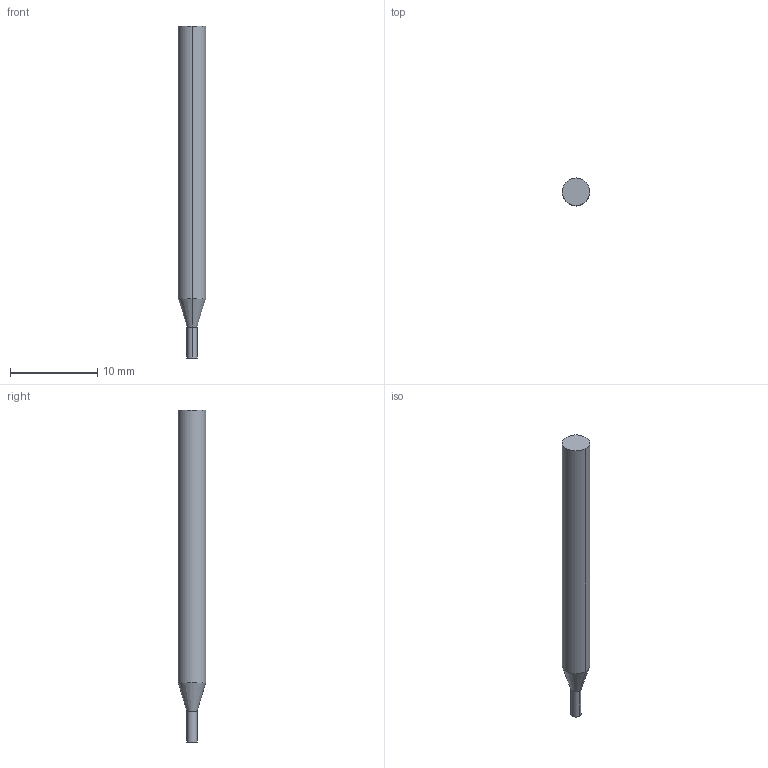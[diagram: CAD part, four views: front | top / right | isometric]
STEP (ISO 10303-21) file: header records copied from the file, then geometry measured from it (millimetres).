
FILE_DESCRIPTION((' '),'2;1');
FILE_NAME( '3MVR0468AH.stp', '2026-01-21T19:05:05', (' '), ('--- Datakit www.datakit.com---'), ' Datakit CrossCadWare V2025.4 Sep 19 2025', 'Mastercam 2027', ' ');
FILE_SCHEMA(('AUTOMOTIVE_DESIGN { 1 0 10303 214 1 1 1 1 }'));
Length unit declared in the file: inch
Products named in the file (1): 3MVR0468AH
Bounding box: 3.17 x 3.17 x 38.1 mm (x, y, z)
Volume: 264.7 mm3; surface area: 357.8 mm2
Topology: 1 solids, 1 shells, 8 faces, 14 edges, 8 vertices
Faces by surface type: cylinder 4, plane 2, cone 2
Entity records: 264 total; most frequent: DIRECTION 48, CARTESIAN_POINT 35, ORIENTED_EDGE 28, AXIS2_PLACEMENT_3D 21, EDGE_CURVE 14, VERTEX_POINT 8, CIRCLE 8, EDGE_LOOP 8
